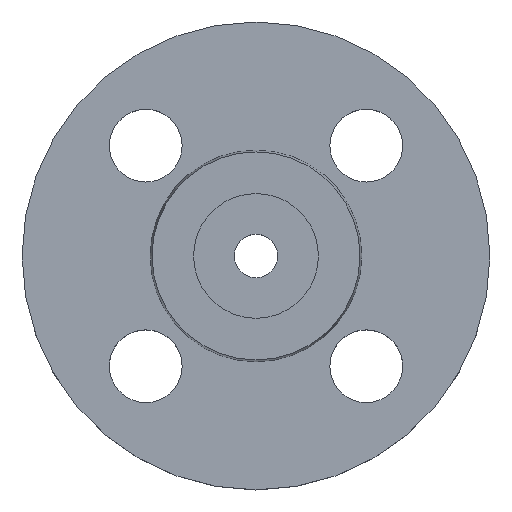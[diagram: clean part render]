
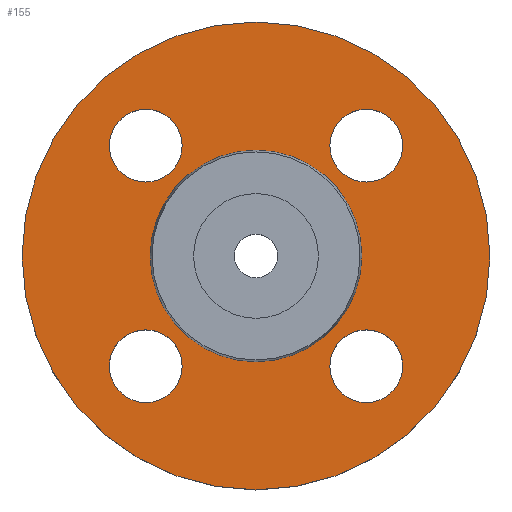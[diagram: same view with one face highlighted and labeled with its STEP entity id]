
A CAD part, top view. The second image highlights one B-rep face of the part: STEP entity #155.
In plain terms, the highlighted planar face has unit normal (0, 0, 1).
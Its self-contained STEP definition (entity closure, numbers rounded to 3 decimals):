
#14 = DIRECTION ( 'NONE',  ( 1., 0., 0. ) ) ;
#15 = DIRECTION ( 'NONE',  ( 0., 0., -1. ) ) ;
#16 = CARTESIAN_POINT ( 'NONE',  ( 21.213, 21.213, -2. ) ) ;
#36 = CARTESIAN_POINT ( 'NONE',  ( 28.213, -21.213, -2. ) ) ;
#42 = CARTESIAN_POINT ( 'NONE',  ( -14.213, 21.213, -2. ) ) ;
#43 = CARTESIAN_POINT ( 'NONE',  ( 28.213, 21.213, -2. ) ) ;
#46 = DIRECTION ( 'NONE',  ( -1., 0., 0. ) ) ;
#48 = DIRECTION ( 'NONE',  ( 0., 0., -1. ) ) ;
#49 = CARTESIAN_POINT ( 'NONE',  ( 0., 0., -2. ) ) ;
#50 = CARTESIAN_POINT ( 'NONE',  ( 14.213, -21.213, -2. ) ) ;
#56 = CARTESIAN_POINT ( 'NONE',  ( 14.213, 21.213, -2. ) ) ;
#57 = CARTESIAN_POINT ( 'NONE',  ( -28.213, 21.213, -2. ) ) ;
#79 = CARTESIAN_POINT ( 'NONE',  ( -20.353, 0., -2. ) ) ;
#86 = EDGE_CURVE ( 'NONE', #273, #484, #310, .T. ) ;
#103 = DIRECTION ( 'NONE',  ( 0., 0., -1. ) ) ;
#104 = CARTESIAN_POINT ( 'NONE',  ( -28.213, -21.213, -2. ) ) ;
#124 = CARTESIAN_POINT ( 'NONE',  ( -21.213, 21.213, -2. ) ) ;
#129 = CARTESIAN_POINT ( 'NONE',  ( 0., 0., -2. ) ) ;
#131 = CARTESIAN_POINT ( 'NONE',  ( -14.213, -21.213, -2. ) ) ;
#138 = DIRECTION ( 'NONE',  ( -1., 0., 0. ) ) ;
#153 = CARTESIAN_POINT ( 'NONE',  ( 20.353, 0., -2. ) ) ;
#155 = ADVANCED_FACE ( 'NONE', ( #628, #631, #632, #636, #637, #638 ), #639, .T. ) ;
#166 = DIRECTION ( 'NONE',  ( 0., 0., -1. ) ) ;
#169 = CIRCLE ( 'NONE', #289, 7. ) ;
#184 = EDGE_CURVE ( 'NONE', #484, #273, #316, .T. ) ;
#190 = EDGE_CURVE ( 'NONE', #339, #360, #232, .T. ) ;
#205 = AXIS2_PLACEMENT_3D ( 'NONE', #129, #166, #138 ) ;
#208 = EDGE_CURVE ( 'NONE', #575, #552, #229, .T. ) ;
#225 = AXIS2_PLACEMENT_3D ( 'NONE', #753, #670, #581 ) ;
#226 = AXIS2_PLACEMENT_3D ( 'NONE', #660, #661, #662 ) ;
#229 = CIRCLE ( 'NONE', #629, 7. ) ;
#232 = CIRCLE ( 'NONE', #226, 7. ) ;
#235 = AXIS2_PLACEMENT_3D ( 'NONE', #16, #15, #14 ) ;
#237 = CIRCLE ( 'NONE', #254, 7. ) ;
#239 = CARTESIAN_POINT ( 'NONE',  ( -45., 0., -2. ) ) ;
#249 = DIRECTION ( 'NONE',  ( 0., 0., -1. ) ) ;
#254 = AXIS2_PLACEMENT_3D ( 'NONE', #743, #744, #745 ) ;
#256 = CARTESIAN_POINT ( 'NONE',  ( -21.213, 21.213, -2. ) ) ;
#257 = DIRECTION ( 'NONE',  ( 0., 0., -1. ) ) ;
#260 = DIRECTION ( 'NONE',  ( 1., 0., 0. ) ) ;
#262 = DIRECTION ( 'NONE',  ( 1., 0., 0. ) ) ;
#271 = CARTESIAN_POINT ( 'NONE',  ( 21.213, -21.213, -2. ) ) ;
#273 = VERTEX_POINT ( 'NONE', #742 ) ;
#275 = CIRCLE ( 'NONE', #276, 7. ) ;
#276 = AXIS2_PLACEMENT_3D ( 'NONE', #256, #257, #260 ) ;
#279 = EDGE_CURVE ( 'NONE', #360, #339, #237, .T. ) ;
#289 = AXIS2_PLACEMENT_3D ( 'NONE', #124, #249, #262 ) ;
#294 = AXIS2_PLACEMENT_3D ( 'NONE', #271, #103, #383 ) ;
#310 = CIRCLE ( 'NONE', #593, 45. ) ;
#316 = CIRCLE ( 'NONE', #723, 45. ) ;
#331 = CIRCLE ( 'NONE', #205, 20.353 ) ;
#339 = VERTEX_POINT ( 'NONE', #131 ) ;
#343 = EDGE_LOOP ( 'NONE', ( #430, #432 ) ) ;
#344 = EDGE_LOOP ( 'NONE', ( #440, #441 ) ) ;
#351 = VERTEX_POINT ( 'NONE', #153 ) ;
#360 = VERTEX_POINT ( 'NONE', #104 ) ;
#383 = DIRECTION ( 'NONE',  ( 1., 0., 0. ) ) ;
#387 = AXIS2_PLACEMENT_3D ( 'NONE', #640, #641, #642 ) ;
#398 = EDGE_CURVE ( 'NONE', #351, #535, #331, .T. ) ;
#425 = ORIENTED_EDGE ( 'NONE', *, *, #208, .T. ) ;
#427 = ORIENTED_EDGE ( 'NONE', *, *, #477, .T. ) ;
#428 = ORIENTED_EDGE ( 'NONE', *, *, #190, .T. ) ;
#429 = ORIENTED_EDGE ( 'NONE', *, *, #279, .T. ) ;
#430 = ORIENTED_EDGE ( 'NONE', *, *, #443, .T. ) ;
#432 = ORIENTED_EDGE ( 'NONE', *, *, #456, .T. ) ;
#436 = ORIENTED_EDGE ( 'NONE', *, *, #732, .T. ) ;
#439 = ORIENTED_EDGE ( 'NONE', *, *, #700, .T. ) ;
#440 = ORIENTED_EDGE ( 'NONE', *, *, #553, .T. ) ;
#441 = ORIENTED_EDGE ( 'NONE', *, *, #398, .T. ) ;
#443 = EDGE_CURVE ( 'NONE', #563, #545, #169, .T. ) ;
#444 = ORIENTED_EDGE ( 'NONE', *, *, #86, .F. ) ;
#445 = ORIENTED_EDGE ( 'NONE', *, *, #184, .F. ) ;
#453 = CIRCLE ( 'NONE', #470, 20.353 ) ;
#456 = EDGE_CURVE ( 'NONE', #545, #563, #275, .T. ) ;
#470 = AXIS2_PLACEMENT_3D ( 'NONE', #49, #48, #46 ) ;
#477 = EDGE_CURVE ( 'NONE', #552, #575, #799, .T. ) ;
#481 = CIRCLE ( 'NONE', #235, 7. ) ;
#484 = VERTEX_POINT ( 'NONE', #239 ) ;
#535 = VERTEX_POINT ( 'NONE', #79 ) ;
#545 = VERTEX_POINT ( 'NONE', #57 ) ;
#547 = VERTEX_POINT ( 'NONE', #56 ) ;
#552 = VERTEX_POINT ( 'NONE', #50 ) ;
#553 = EDGE_CURVE ( 'NONE', #535, #351, #453, .T. ) ;
#556 = EDGE_LOOP ( 'NONE', ( #425, #427 ) ) ;
#560 = CIRCLE ( 'NONE', #225, 7. ) ;
#562 = VERTEX_POINT ( 'NONE', #43 ) ;
#563 = VERTEX_POINT ( 'NONE', #42 ) ;
#575 = VERTEX_POINT ( 'NONE', #36 ) ;
#581 = DIRECTION ( 'NONE',  ( 1., 0., 0. ) ) ;
#582 = EDGE_LOOP ( 'NONE', ( #428, #429 ) ) ;
#584 = EDGE_LOOP ( 'NONE', ( #436, #439 ) ) ;
#585 = EDGE_LOOP ( 'NONE', ( #444, #445 ) ) ;
#593 = AXIS2_PLACEMENT_3D ( 'NONE', #611, #614, #616 ) ;
#611 = CARTESIAN_POINT ( 'NONE',  ( 0., 0., -2. ) ) ;
#614 = DIRECTION ( 'NONE',  ( 0., 0., -1. ) ) ;
#616 = DIRECTION ( 'NONE',  ( -1., 0., 0. ) ) ;
#628 = FACE_BOUND ( 'NONE', #556, .T. ) ;
#629 = AXIS2_PLACEMENT_3D ( 'NONE', #696, #697, #698 ) ;
#631 = FACE_BOUND ( 'NONE', #582, .T. ) ;
#632 = FACE_BOUND ( 'NONE', #343, .T. ) ;
#636 = FACE_BOUND ( 'NONE', #584, .T. ) ;
#637 = FACE_BOUND ( 'NONE', #344, .T. ) ;
#638 = FACE_OUTER_BOUND ( 'NONE', #585, .T. ) ;
#639 = PLANE ( 'NONE',  #387 ) ;
#640 = CARTESIAN_POINT ( 'NONE',  ( 20.353, 0., -2. ) ) ;
#641 = DIRECTION ( 'NONE',  ( 0., 0., 1. ) ) ;
#642 = DIRECTION ( 'NONE',  ( 1., 0., 0. ) ) ;
#654 = CARTESIAN_POINT ( 'NONE',  ( 0., 0., -2. ) ) ;
#655 = DIRECTION ( 'NONE',  ( 0., 0., -1. ) ) ;
#656 = DIRECTION ( 'NONE',  ( -1., 0., 0. ) ) ;
#660 = CARTESIAN_POINT ( 'NONE',  ( -21.213, -21.213, -2. ) ) ;
#661 = DIRECTION ( 'NONE',  ( 0., 0., -1. ) ) ;
#662 = DIRECTION ( 'NONE',  ( 1., 0., 0. ) ) ;
#670 = DIRECTION ( 'NONE',  ( 0., 0., -1. ) ) ;
#696 = CARTESIAN_POINT ( 'NONE',  ( 21.213, -21.213, -2. ) ) ;
#697 = DIRECTION ( 'NONE',  ( 0., 0., -1. ) ) ;
#698 = DIRECTION ( 'NONE',  ( 1., 0., 0. ) ) ;
#700 = EDGE_CURVE ( 'NONE', #547, #562, #481, .T. ) ;
#723 = AXIS2_PLACEMENT_3D ( 'NONE', #654, #655, #656 ) ;
#732 = EDGE_CURVE ( 'NONE', #562, #547, #560, .T. ) ;
#742 = CARTESIAN_POINT ( 'NONE',  ( 45., 0., -2. ) ) ;
#743 = CARTESIAN_POINT ( 'NONE',  ( -21.213, -21.213, -2. ) ) ;
#744 = DIRECTION ( 'NONE',  ( 0., 0., -1. ) ) ;
#745 = DIRECTION ( 'NONE',  ( 1., 0., 0. ) ) ;
#753 = CARTESIAN_POINT ( 'NONE',  ( 21.213, 21.213, -2. ) ) ;
#799 = CIRCLE ( 'NONE', #294, 7. ) ;
